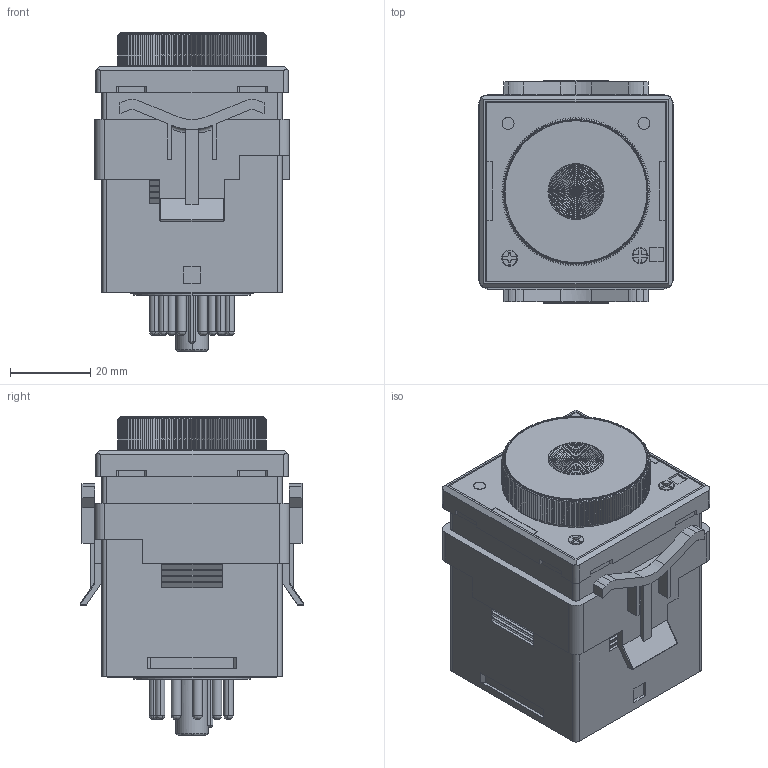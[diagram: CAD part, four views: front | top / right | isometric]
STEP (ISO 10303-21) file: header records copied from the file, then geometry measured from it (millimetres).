
FILE_DESCRIPTION (( 'STEP AP214' ), '1' );
FILE_NAME ('AT11DN.STEP', '2019-07-24T05:42:34', ( '' ), ( '' ), 'SwSTEP 2.0', 'SolidWorks 2018', '' );
FILE_SCHEMA (( 'AUTOMOTIVE_DESIGN' ));
Length unit declared in the file: millimetre
Products named in the file (1): AT11DN
Bounding box: 48.6 x 55.96 x 79.55 mm (x, y, z)
Volume: 126480.4 mm3; surface area: 31595.9 mm2
Topology: 3 solids, 4 shells, 2263 faces, 5364 edges, 3282 vertices
Faces by surface type: plane 1388, bspline 366, cone 305, cylinder 196, torus 8
Entity records: 97001 total; most frequent: CARTESIAN_POINT 21677, ORIENTED_EDGE 10720, DIRECTION 9926, EDGE_CURVE 5360, AXIS2_PLACEMENT_3D 3393, VERTEX_POINT 3282, LINE 3140, VECTOR 3140
